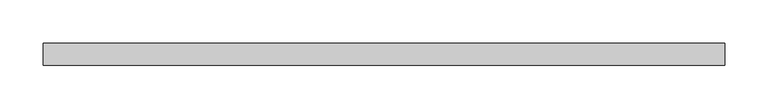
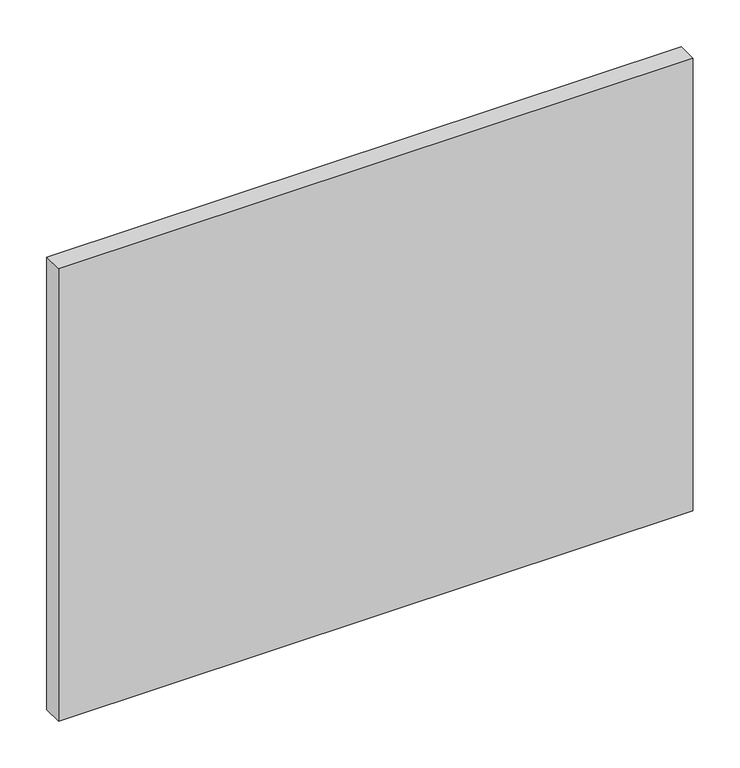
"""IFC4 building model written with IfcOpenShell, lengths in millimetres: plate geometry, 系统嵌板 : 玻璃."""

from ifc_helpers import new_model, si_unit, origin, origin_with_axes, place, context, project, spatial, polyline, outline, extrude, source, transform, mapped, element, save


def plate_ac96ec8a(model_context):
    return source(origin(), model_context, "Body", "SweptSolid", [
        extrude(outline(polyline([(391.4697819, -12.5), (-391.4697819, -12.5), (-391.4697819, 12.5), (391.4697819, 12.5), (391.4697819, -12.5)])), origin_with_axes(), (0.0, 0.0, 1.0), 590.0),
    ])


if __name__ == "__main__":
    model = new_model("IFC4")
    model_context = context("Model", 3, world=origin())
    ifc_project = project(units=[si_unit("LENGTHUNIT", "METRE", prefix="MILLI")], contexts=[model_context])
    site = spatial("IfcSite", under=ifc_project)
    building = spatial("IfcBuilding", under=site)
    placement = place(None, origin())
    plate_shape = plate_ac96ec8a(model_context)
    element("IfcPlate", 1, ObjectType="系统嵌板 : 玻璃", at=placement, inside=building, context=model_context, shape_type="MappedRepresentation", body=[
        mapped(plate_shape, transform((0.0, 0.0, 0.0), x_axis=(1.0, 0.0, 0.0), y_axis=(0.0, 1.0, 0.0), z_axis=(0.0, 0.0, 1.0))),
    ])
    save(model, "model.ifc")
